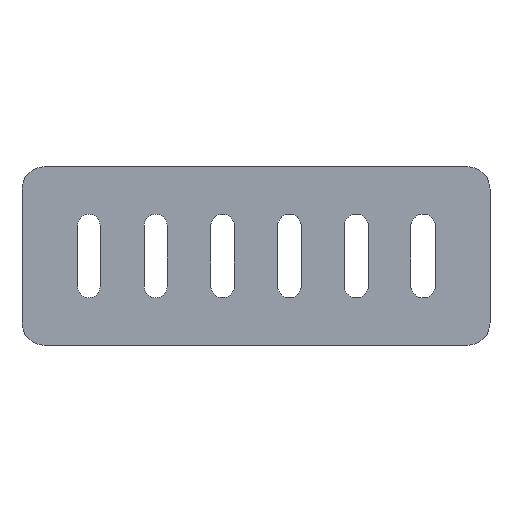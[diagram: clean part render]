
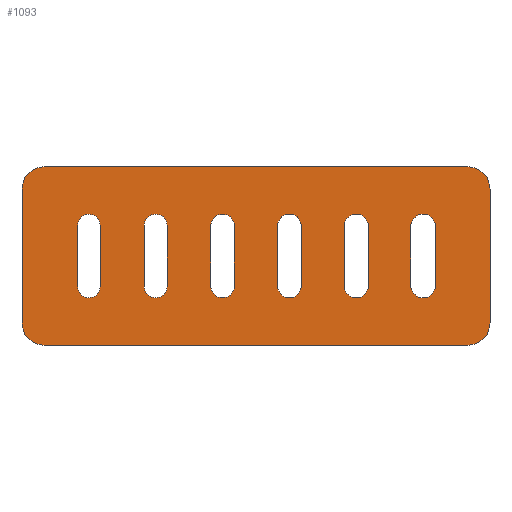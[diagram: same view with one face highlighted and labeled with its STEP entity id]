
A CAD part, top view. The second image highlights one B-rep face of the part: STEP entity #1093.
In plain terms, the highlighted planar face has unit normal (0, 0, 1).
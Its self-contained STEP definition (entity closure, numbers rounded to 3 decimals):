
#24 = VERTEX_POINT('',#25);
#25 = CARTESIAN_POINT('',(-37.,12.,4.));
#31 = EDGE_CURVE('',#24,#32,#34,.T.);
#32 = VERTEX_POINT('',#33);
#33 = CARTESIAN_POINT('',(-37.,-12.,4.));
#34 = LINE('',#35,#36);
#35 = CARTESIAN_POINT('',(-37.,12.,4.));
#36 = VECTOR('',#37,1.);
#37 = DIRECTION('',(0.,-1.,0.));
#62 = EDGE_CURVE('',#32,#63,#65,.T.);
#63 = VERTEX_POINT('',#64);
#64 = CARTESIAN_POINT('',(-33.,-16.,4.));
#65 = CIRCLE('',#66,4.);
#66 = AXIS2_PLACEMENT_3D('',#67,#68,#69);
#67 = CARTESIAN_POINT('',(-33.,-12.,4.));
#68 = DIRECTION('',(0.,0.,1.));
#69 = DIRECTION('',(-1.,0.,0.));
#95 = EDGE_CURVE('',#63,#96,#98,.T.);
#96 = VERTEX_POINT('',#97);
#97 = CARTESIAN_POINT('',(43.,-16.,4.));
#98 = LINE('',#99,#100);
#99 = CARTESIAN_POINT('',(-33.,-16.,4.));
#100 = VECTOR('',#101,1.);
#101 = DIRECTION('',(1.,0.,0.));
#126 = EDGE_CURVE('',#96,#127,#129,.T.);
#127 = VERTEX_POINT('',#128);
#128 = CARTESIAN_POINT('',(47.,-12.,4.));
#129 = CIRCLE('',#130,4.);
#130 = AXIS2_PLACEMENT_3D('',#131,#132,#133);
#131 = CARTESIAN_POINT('',(43.,-12.,4.));
#132 = DIRECTION('',(-0.,0.,1.));
#133 = DIRECTION('',(0.,-1.,0.));
#159 = EDGE_CURVE('',#127,#160,#162,.T.);
#160 = VERTEX_POINT('',#161);
#161 = CARTESIAN_POINT('',(47.,12.,4.));
#162 = LINE('',#163,#164);
#163 = CARTESIAN_POINT('',(47.,-12.,4.));
#164 = VECTOR('',#165,1.);
#165 = DIRECTION('',(0.,1.,0.));
#190 = EDGE_CURVE('',#160,#191,#193,.T.);
#191 = VERTEX_POINT('',#192);
#192 = CARTESIAN_POINT('',(43.,16.,4.));
#193 = CIRCLE('',#194,4.);
#194 = AXIS2_PLACEMENT_3D('',#195,#196,#197);
#195 = CARTESIAN_POINT('',(43.,12.,4.));
#196 = DIRECTION('',(-0.,0.,1.));
#197 = DIRECTION('',(1.,0.,0.));
#223 = EDGE_CURVE('',#191,#224,#226,.T.);
#224 = VERTEX_POINT('',#225);
#225 = CARTESIAN_POINT('',(-33.,16.,4.));
#226 = LINE('',#227,#228);
#227 = CARTESIAN_POINT('',(43.,16.,4.));
#228 = VECTOR('',#229,1.);
#229 = DIRECTION('',(-1.,0.,0.));
#254 = EDGE_CURVE('',#224,#24,#255,.T.);
#255 = CIRCLE('',#256,4.);
#256 = AXIS2_PLACEMENT_3D('',#257,#258,#259);
#257 = CARTESIAN_POINT('',(-33.,12.,4.));
#258 = DIRECTION('',(0.,-0.,1.));
#259 = DIRECTION('',(0.,1.,0.));
#280 = VERTEX_POINT('',#281);
#281 = CARTESIAN_POINT('',(37.25,-5.25,4.));
#287 = EDGE_CURVE('',#280,#288,#290,.T.);
#288 = VERTEX_POINT('',#289);
#289 = CARTESIAN_POINT('',(37.25,5.25,4.));
#290 = LINE('',#291,#292);
#291 = CARTESIAN_POINT('',(37.25,-5.25,4.));
#292 = VECTOR('',#293,1.);
#293 = DIRECTION('',(0.,1.,0.));
#318 = EDGE_CURVE('',#288,#319,#321,.T.);
#319 = VERTEX_POINT('',#320);
#320 = CARTESIAN_POINT('',(32.75,5.25,4.));
#321 = CIRCLE('',#322,2.25);
#322 = AXIS2_PLACEMENT_3D('',#323,#324,#325);
#323 = CARTESIAN_POINT('',(35.,5.25,4.));
#324 = DIRECTION('',(-0.,0.,1.));
#325 = DIRECTION('',(1.,0.,0.));
#351 = EDGE_CURVE('',#319,#352,#354,.T.);
#352 = VERTEX_POINT('',#353);
#353 = CARTESIAN_POINT('',(32.75,-5.25,4.));
#354 = LINE('',#355,#356);
#355 = CARTESIAN_POINT('',(32.75,5.25,4.));
#356 = VECTOR('',#357,1.);
#357 = DIRECTION('',(0.,-1.,0.));
#382 = EDGE_CURVE('',#352,#280,#383,.T.);
#383 = CIRCLE('',#384,2.25);
#384 = AXIS2_PLACEMENT_3D('',#385,#386,#387);
#385 = CARTESIAN_POINT('',(35.,-5.25,4.));
#386 = DIRECTION('',(0.,0.,1.));
#387 = DIRECTION('',(-1.,0.,0.));
#408 = VERTEX_POINT('',#409);
#409 = CARTESIAN_POINT('',(25.2,-5.3,4.));
#415 = EDGE_CURVE('',#408,#416,#418,.T.);
#416 = VERTEX_POINT('',#417);
#417 = CARTESIAN_POINT('',(25.2,5.3,4.));
#418 = LINE('',#419,#420);
#419 = CARTESIAN_POINT('',(25.2,-5.3,4.));
#420 = VECTOR('',#421,1.);
#421 = DIRECTION('',(0.,1.,0.));
#446 = EDGE_CURVE('',#416,#447,#449,.T.);
#447 = VERTEX_POINT('',#448);
#448 = CARTESIAN_POINT('',(20.8,5.3,4.));
#449 = CIRCLE('',#450,2.2);
#450 = AXIS2_PLACEMENT_3D('',#451,#452,#453);
#451 = CARTESIAN_POINT('',(23.,5.3,4.));
#452 = DIRECTION('',(-0.,0.,1.));
#453 = DIRECTION('',(1.,0.,0.));
#479 = EDGE_CURVE('',#447,#480,#482,.T.);
#480 = VERTEX_POINT('',#481);
#481 = CARTESIAN_POINT('',(20.8,-5.3,4.));
#482 = LINE('',#483,#484);
#483 = CARTESIAN_POINT('',(20.8,5.3,4.));
#484 = VECTOR('',#485,1.);
#485 = DIRECTION('',(0.,-1.,0.));
#510 = EDGE_CURVE('',#480,#408,#511,.T.);
#511 = CIRCLE('',#512,2.2);
#512 = AXIS2_PLACEMENT_3D('',#513,#514,#515);
#513 = CARTESIAN_POINT('',(23.,-5.3,4.));
#514 = DIRECTION('',(0.,0.,1.));
#515 = DIRECTION('',(-1.,0.,0.));
#536 = VERTEX_POINT('',#537);
#537 = CARTESIAN_POINT('',(13.15,-5.35,4.));
#543 = EDGE_CURVE('',#536,#544,#546,.T.);
#544 = VERTEX_POINT('',#545);
#545 = CARTESIAN_POINT('',(13.15,5.35,4.));
#546 = LINE('',#547,#548);
#547 = CARTESIAN_POINT('',(13.15,-5.35,4.));
#548 = VECTOR('',#549,1.);
#549 = DIRECTION('',(0.,1.,0.));
#574 = EDGE_CURVE('',#544,#575,#577,.T.);
#575 = VERTEX_POINT('',#576);
#576 = CARTESIAN_POINT('',(8.85,5.35,4.));
#577 = CIRCLE('',#578,2.15);
#578 = AXIS2_PLACEMENT_3D('',#579,#580,#581);
#579 = CARTESIAN_POINT('',(11.,5.35,4.));
#580 = DIRECTION('',(-0.,0.,1.));
#581 = DIRECTION('',(1.,0.,0.));
#607 = EDGE_CURVE('',#575,#608,#610,.T.);
#608 = VERTEX_POINT('',#609);
#609 = CARTESIAN_POINT('',(8.85,-5.35,4.));
#610 = LINE('',#611,#612);
#611 = CARTESIAN_POINT('',(8.85,5.35,4.));
#612 = VECTOR('',#613,1.);
#613 = DIRECTION('',(0.,-1.,0.));
#638 = EDGE_CURVE('',#608,#536,#639,.T.);
#639 = CIRCLE('',#640,2.15);
#640 = AXIS2_PLACEMENT_3D('',#641,#642,#643);
#641 = CARTESIAN_POINT('',(11.,-5.35,4.));
#642 = DIRECTION('',(0.,0.,1.));
#643 = DIRECTION('',(-1.,0.,0.));
#664 = VERTEX_POINT('',#665);
#665 = CARTESIAN_POINT('',(1.1,-5.4,4.));
#671 = EDGE_CURVE('',#664,#672,#674,.T.);
#672 = VERTEX_POINT('',#673);
#673 = CARTESIAN_POINT('',(1.1,5.4,4.));
#674 = LINE('',#675,#676);
#675 = CARTESIAN_POINT('',(1.1,-5.4,4.));
#676 = VECTOR('',#677,1.);
#677 = DIRECTION('',(0.,1.,0.));
#702 = EDGE_CURVE('',#672,#703,#705,.T.);
#703 = VERTEX_POINT('',#704);
#704 = CARTESIAN_POINT('',(-3.1,5.4,4.));
#705 = CIRCLE('',#706,2.1);
#706 = AXIS2_PLACEMENT_3D('',#707,#708,#709);
#707 = CARTESIAN_POINT('',(-1.,5.4,4.));
#708 = DIRECTION('',(-0.,0.,1.));
#709 = DIRECTION('',(1.,0.,0.));
#735 = EDGE_CURVE('',#703,#736,#738,.T.);
#736 = VERTEX_POINT('',#737);
#737 = CARTESIAN_POINT('',(-3.1,-5.4,4.));
#738 = LINE('',#739,#740);
#739 = CARTESIAN_POINT('',(-3.1,5.4,4.));
#740 = VECTOR('',#741,1.);
#741 = DIRECTION('',(0.,-1.,0.));
#766 = EDGE_CURVE('',#736,#664,#767,.T.);
#767 = CIRCLE('',#768,2.1);
#768 = AXIS2_PLACEMENT_3D('',#769,#770,#771);
#769 = CARTESIAN_POINT('',(-1.,-5.4,4.));
#770 = DIRECTION('',(0.,0.,1.));
#771 = DIRECTION('',(-1.,0.,0.));
#792 = VERTEX_POINT('',#793);
#793 = CARTESIAN_POINT('',(-10.95,-5.45,4.));
#799 = EDGE_CURVE('',#792,#800,#802,.T.);
#800 = VERTEX_POINT('',#801);
#801 = CARTESIAN_POINT('',(-10.95,5.45,4.));
#802 = LINE('',#803,#804);
#803 = CARTESIAN_POINT('',(-10.95,-5.45,4.));
#804 = VECTOR('',#805,1.);
#805 = DIRECTION('',(0.,1.,0.));
#830 = EDGE_CURVE('',#800,#831,#833,.T.);
#831 = VERTEX_POINT('',#832);
#832 = CARTESIAN_POINT('',(-15.05,5.45,4.));
#833 = CIRCLE('',#834,2.05);
#834 = AXIS2_PLACEMENT_3D('',#835,#836,#837);
#835 = CARTESIAN_POINT('',(-13.,5.45,4.));
#836 = DIRECTION('',(0.,-0.,1.));
#837 = DIRECTION('',(1.,0.,0.));
#863 = EDGE_CURVE('',#831,#864,#866,.T.);
#864 = VERTEX_POINT('',#865);
#865 = CARTESIAN_POINT('',(-15.05,-5.45,4.));
#866 = LINE('',#867,#868);
#867 = CARTESIAN_POINT('',(-15.05,5.45,4.));
#868 = VECTOR('',#869,1.);
#869 = DIRECTION('',(0.,-1.,0.));
#894 = EDGE_CURVE('',#864,#792,#895,.T.);
#895 = CIRCLE('',#896,2.05);
#896 = AXIS2_PLACEMENT_3D('',#897,#898,#899);
#897 = CARTESIAN_POINT('',(-13.,-5.45,4.));
#898 = DIRECTION('',(0.,0.,1.));
#899 = DIRECTION('',(-1.,0.,0.));
#920 = VERTEX_POINT('',#921);
#921 = CARTESIAN_POINT('',(-23.,-5.5,4.));
#927 = EDGE_CURVE('',#920,#928,#930,.T.);
#928 = VERTEX_POINT('',#929);
#929 = CARTESIAN_POINT('',(-23.,5.5,4.));
#930 = LINE('',#931,#932);
#931 = CARTESIAN_POINT('',(-23.,-5.5,4.));
#932 = VECTOR('',#933,1.);
#933 = DIRECTION('',(0.,1.,0.));
#958 = EDGE_CURVE('',#928,#959,#961,.T.);
#959 = VERTEX_POINT('',#960);
#960 = CARTESIAN_POINT('',(-27.,5.5,4.));
#961 = CIRCLE('',#962,2.);
#962 = AXIS2_PLACEMENT_3D('',#963,#964,#965);
#963 = CARTESIAN_POINT('',(-25.,5.5,4.));
#964 = DIRECTION('',(-0.,0.,1.));
#965 = DIRECTION('',(1.,0.,0.));
#991 = EDGE_CURVE('',#959,#992,#994,.T.);
#992 = VERTEX_POINT('',#993);
#993 = CARTESIAN_POINT('',(-27.,-5.5,4.));
#994 = LINE('',#995,#996);
#995 = CARTESIAN_POINT('',(-27.,5.5,4.));
#996 = VECTOR('',#997,1.);
#997 = DIRECTION('',(0.,-1.,0.));
#1022 = EDGE_CURVE('',#992,#920,#1023,.T.);
#1023 = CIRCLE('',#1024,2.);
#1024 = AXIS2_PLACEMENT_3D('',#1025,#1026,#1027);
#1025 = CARTESIAN_POINT('',(-25.,-5.5,4.));
#1026 = DIRECTION('',(0.,0.,1.));
#1027 = DIRECTION('',(-1.,0.,0.));
#1093 = ADVANCED_FACE('',(#1094,#1104,#1110,#1116,#1122,#1128,#1134),
  #1140,.T.);
#1094 = FACE_BOUND('',#1095,.T.);
#1095 = EDGE_LOOP('',(#1096,#1097,#1098,#1099,#1100,#1101,#1102,#1103));
#1096 = ORIENTED_EDGE('',*,*,#31,.T.);
#1097 = ORIENTED_EDGE('',*,*,#62,.T.);
#1098 = ORIENTED_EDGE('',*,*,#95,.T.);
#1099 = ORIENTED_EDGE('',*,*,#126,.T.);
#1100 = ORIENTED_EDGE('',*,*,#159,.T.);
#1101 = ORIENTED_EDGE('',*,*,#190,.T.);
#1102 = ORIENTED_EDGE('',*,*,#223,.T.);
#1103 = ORIENTED_EDGE('',*,*,#254,.T.);
#1104 = FACE_BOUND('',#1105,.F.);
#1105 = EDGE_LOOP('',(#1106,#1107,#1108,#1109));
#1106 = ORIENTED_EDGE('',*,*,#287,.T.);
#1107 = ORIENTED_EDGE('',*,*,#318,.T.);
#1108 = ORIENTED_EDGE('',*,*,#351,.T.);
#1109 = ORIENTED_EDGE('',*,*,#382,.T.);
#1110 = FACE_BOUND('',#1111,.F.);
#1111 = EDGE_LOOP('',(#1112,#1113,#1114,#1115));
#1112 = ORIENTED_EDGE('',*,*,#415,.T.);
#1113 = ORIENTED_EDGE('',*,*,#446,.T.);
#1114 = ORIENTED_EDGE('',*,*,#479,.T.);
#1115 = ORIENTED_EDGE('',*,*,#510,.T.);
#1116 = FACE_BOUND('',#1117,.F.);
#1117 = EDGE_LOOP('',(#1118,#1119,#1120,#1121));
#1118 = ORIENTED_EDGE('',*,*,#543,.T.);
#1119 = ORIENTED_EDGE('',*,*,#574,.T.);
#1120 = ORIENTED_EDGE('',*,*,#607,.T.);
#1121 = ORIENTED_EDGE('',*,*,#638,.T.);
#1122 = FACE_BOUND('',#1123,.F.);
#1123 = EDGE_LOOP('',(#1124,#1125,#1126,#1127));
#1124 = ORIENTED_EDGE('',*,*,#671,.T.);
#1125 = ORIENTED_EDGE('',*,*,#702,.T.);
#1126 = ORIENTED_EDGE('',*,*,#735,.T.);
#1127 = ORIENTED_EDGE('',*,*,#766,.T.);
#1128 = FACE_BOUND('',#1129,.F.);
#1129 = EDGE_LOOP('',(#1130,#1131,#1132,#1133));
#1130 = ORIENTED_EDGE('',*,*,#799,.T.);
#1131 = ORIENTED_EDGE('',*,*,#830,.T.);
#1132 = ORIENTED_EDGE('',*,*,#863,.T.);
#1133 = ORIENTED_EDGE('',*,*,#894,.T.);
#1134 = FACE_BOUND('',#1135,.F.);
#1135 = EDGE_LOOP('',(#1136,#1137,#1138,#1139));
#1136 = ORIENTED_EDGE('',*,*,#927,.T.);
#1137 = ORIENTED_EDGE('',*,*,#958,.T.);
#1138 = ORIENTED_EDGE('',*,*,#991,.T.);
#1139 = ORIENTED_EDGE('',*,*,#1022,.T.);
#1140 = PLANE('',#1141);
#1141 = AXIS2_PLACEMENT_3D('',#1142,#1143,#1144);
#1142 = CARTESIAN_POINT('',(5.049,0.,4.));
#1143 = DIRECTION('',(0.,0.,1.));
#1144 = DIRECTION('',(1.,0.,0.));
